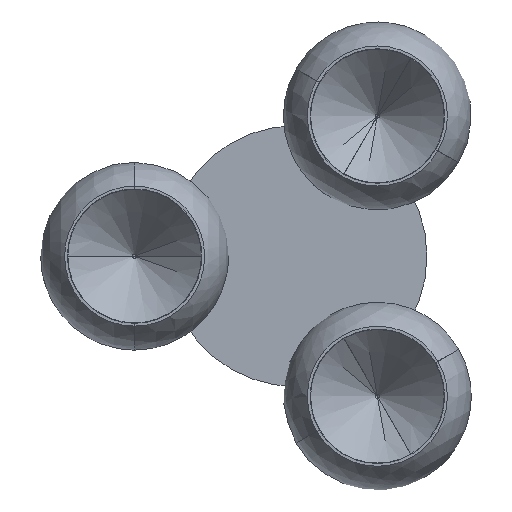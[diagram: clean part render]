
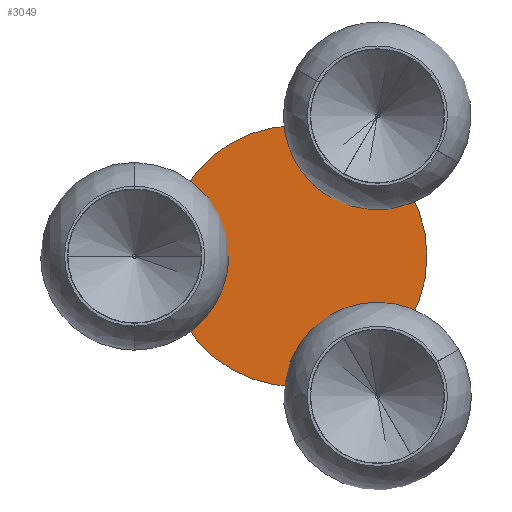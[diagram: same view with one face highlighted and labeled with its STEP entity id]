
A CAD part, front view. The second image highlights one B-rep face of the part: STEP entity #3049.
In plain terms, the highlighted planar face has unit normal (0, -1, 0).
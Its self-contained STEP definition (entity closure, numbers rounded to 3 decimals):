
#247 = VERTEX_POINT ( 'NONE', #1607 ) ;
#690 = DIRECTION ( 'NONE',  ( 0., 0., 1. ) ) ;
#870 = CARTESIAN_POINT ( 'NONE',  ( 0., 0., -125. ) ) ;
#1263 = DIRECTION ( 'NONE',  ( 0., 0., 1. ) ) ;
#1288 = VERTEX_POINT ( 'NONE', #870 ) ;
#1402 = EDGE_CURVE ( 'NONE', #247, #1288, #2693, .T. ) ;
#1431 = AXIS2_PLACEMENT_3D ( 'NONE', #1523, #2721, #690 ) ;
#1475 = DIRECTION ( 'NONE',  ( 0., 1., 0. ) ) ;
#1523 = CARTESIAN_POINT ( 'NONE',  ( 0., 0., 0. ) ) ;
#1576 = DIRECTION ( 'NONE',  ( 0., 1., 0. ) ) ;
#1607 = CARTESIAN_POINT ( 'NONE',  ( 0., 0., 125. ) ) ;
#1743 = AXIS2_PLACEMENT_3D ( 'NONE', #2446, #1576, #1263 ) ;
#1803 = FACE_OUTER_BOUND ( 'NONE', #2603, .T. ) ;
#1994 = CIRCLE ( 'NONE', #1743, 125. ) ;
#2163 = PLANE ( 'NONE',  #1431 ) ;
#2334 = ORIENTED_EDGE ( 'NONE', *, *, #3493, .F. ) ;
#2367 = DIRECTION ( 'NONE',  ( 0., 0., 1. ) ) ;
#2446 = CARTESIAN_POINT ( 'NONE',  ( 0., 0., 0. ) ) ;
#2603 = EDGE_LOOP ( 'NONE', ( #2334, #3208 ) ) ;
#2693 = CIRCLE ( 'NONE', #2944, 125. ) ;
#2721 = DIRECTION ( 'NONE',  ( 0., 1., 0. ) ) ;
#2944 = AXIS2_PLACEMENT_3D ( 'NONE', #3296, #1475, #2367 ) ;
#3049 = ADVANCED_FACE ( 'NONE', ( #1803 ), #2163, .F. ) ;
#3208 = ORIENTED_EDGE ( 'NONE', *, *, #1402, .F. ) ;
#3296 = CARTESIAN_POINT ( 'NONE',  ( 0., 0., 0. ) ) ;
#3493 = EDGE_CURVE ( 'NONE', #1288, #247, #1994, .T. ) ;
